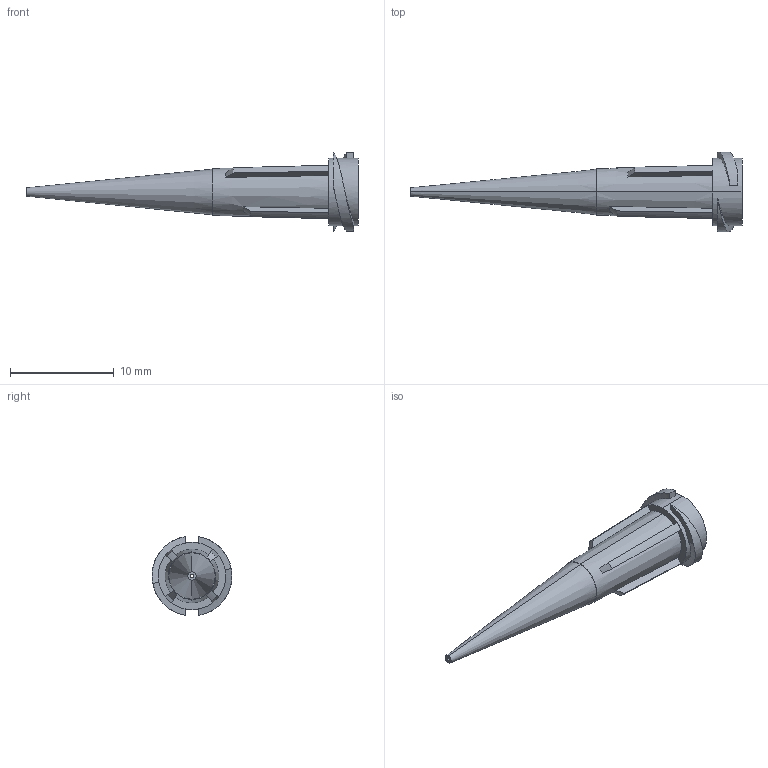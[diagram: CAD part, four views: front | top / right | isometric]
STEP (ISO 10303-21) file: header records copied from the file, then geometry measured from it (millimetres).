
FILE_DESCRIPTION (( 'STEP AP214' ), '1' );
FILE_NAME ('8001279_CUS.STEP', '2022-05-31T13:46:13', ( '' ), ( '' ), 'SwSTEP 2.0', 'SolidWorks 2020', '' );
FILE_SCHEMA (( 'AUTOMOTIVE_DESIGN' ));
Length unit declared in the file: millimetre
Products named in the file (1): 8001279_CUS
Bounding box: 32 x 7.69 x 7.59 mm (x, y, z)
Volume: 231.8 mm3; surface area: 766.8 mm2
Topology: 3 solids, 3 shells, 55 faces, 126 edges, 82 vertices
Faces by surface type: plane 25, cone 20, bspline 6, cylinder 4
Entity records: 1824 total; most frequent: CARTESIAN_POINT 554, DIRECTION 254, ORIENTED_EDGE 252, EDGE_CURVE 126, AXIS2_PLACEMENT_3D 100, VERTEX_POINT 82, EDGE_LOOP 62, ADVANCED_FACE 55
